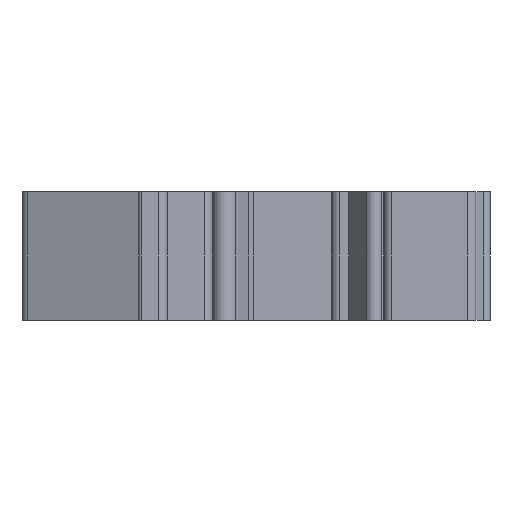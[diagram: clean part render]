
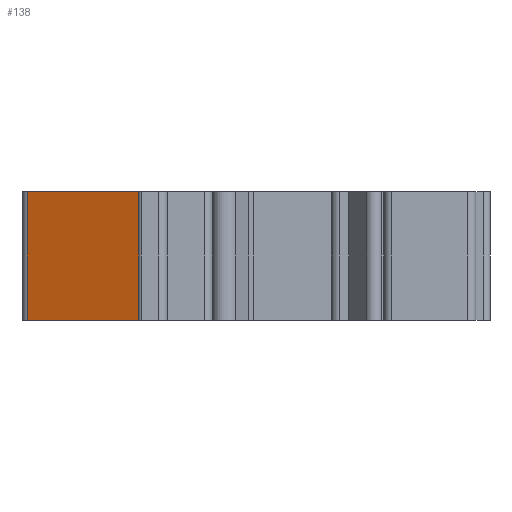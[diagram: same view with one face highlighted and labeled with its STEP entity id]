
A CAD part, front view. The second image highlights one B-rep face of the part: STEP entity #138.
In plain terms, the highlighted planar face has unit normal (-0.357, -0.934, 0).
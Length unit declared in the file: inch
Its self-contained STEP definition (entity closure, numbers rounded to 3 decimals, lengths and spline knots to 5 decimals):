
#138=ADVANCED_FACE('',(#334),#238,.T.);
#238=PLANE('',#2411);
#334=FACE_OUTER_BOUND('',#449,.T.);
#449=EDGE_LOOP('',(#1017,#1018,#1019,#1020));
#1017=ORIENTED_EDGE('',*,*,#1487,.F.);
#1018=ORIENTED_EDGE('',*,*,#1703,.F.);
#1019=ORIENTED_EDGE('',*,*,#1591,.T.);
#1020=ORIENTED_EDGE('',*,*,#1704,.T.);
#1269=VERTEX_POINT('',#3195);
#1270=VERTEX_POINT('',#3197);
#1364=VERTEX_POINT('',#3403);
#1365=VERTEX_POINT('',#3405);
#1487=EDGE_CURVE('',#1269,#1270,#1802,.T.);
#1591=EDGE_CURVE('',#1365,#1364,#1881,.T.);
#1703=EDGE_CURVE('',#1365,#1269,#1978,.T.);
#1704=EDGE_CURVE('',#1364,#1270,#1979,.T.);
#1802=LINE('',#3196,#2073);
#1881=LINE('',#3404,#2152);
#1978=LINE('',#3638,#2250);
#1979=LINE('',#3640,#2251);
#2073=VECTOR('',#2536,1.);
#2152=VECTOR('',#2683,1.);
#2250=VECTOR('',#2915,1.);
#2251=VECTOR('',#2918,1.);
#2411=AXIS2_PLACEMENT_3D('',#3641,#2919,#2920);
#2536=DIRECTION('',(0.934,-0.357,0.));
#2683=DIRECTION('',(0.934,-0.357,0.));
#2915=DIRECTION('',(0.,0.,1.));
#2918=DIRECTION('',(0.,0.,1.));
#2919=DIRECTION('',(-0.357,-0.934,0.));
#2920=DIRECTION('',(-0.934,0.357,0.));
#3195=CARTESIAN_POINT('',(280.57346,74.49396,0.39764));
#3196=CARTESIAN_POINT('',(280.57346,74.49396,0.39764));
#3197=CARTESIAN_POINT('',(281.26104,74.23095,0.39764));
#3403=CARTESIAN_POINT('',(281.26104,74.23095,-0.39764));
#3404=CARTESIAN_POINT('',(280.57346,74.49396,-0.39764));
#3405=CARTESIAN_POINT('',(280.57346,74.49396,-0.39764));
#3638=CARTESIAN_POINT('',(280.57346,74.49396,-0.39764));
#3640=CARTESIAN_POINT('',(281.26104,74.23095,-0.39764));
#3641=CARTESIAN_POINT('',(280.57346,74.49396,0.));
